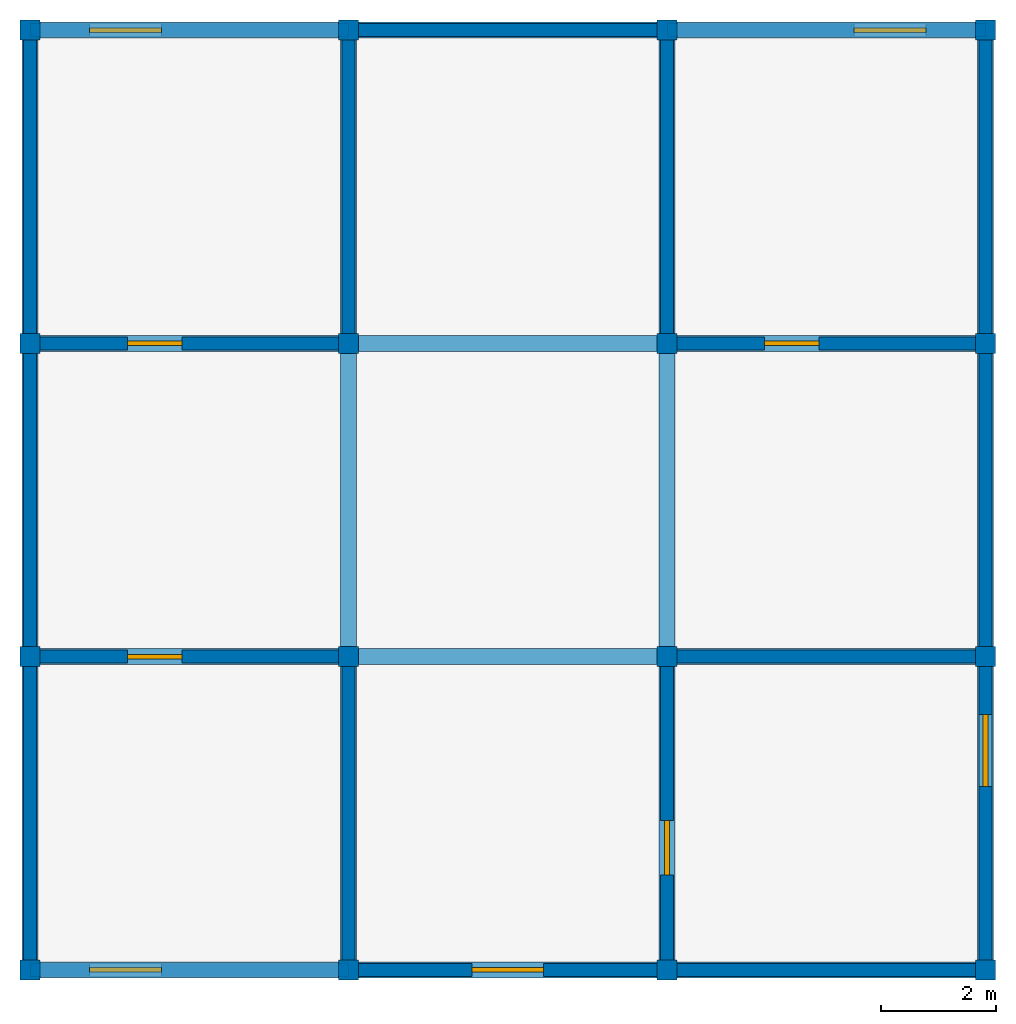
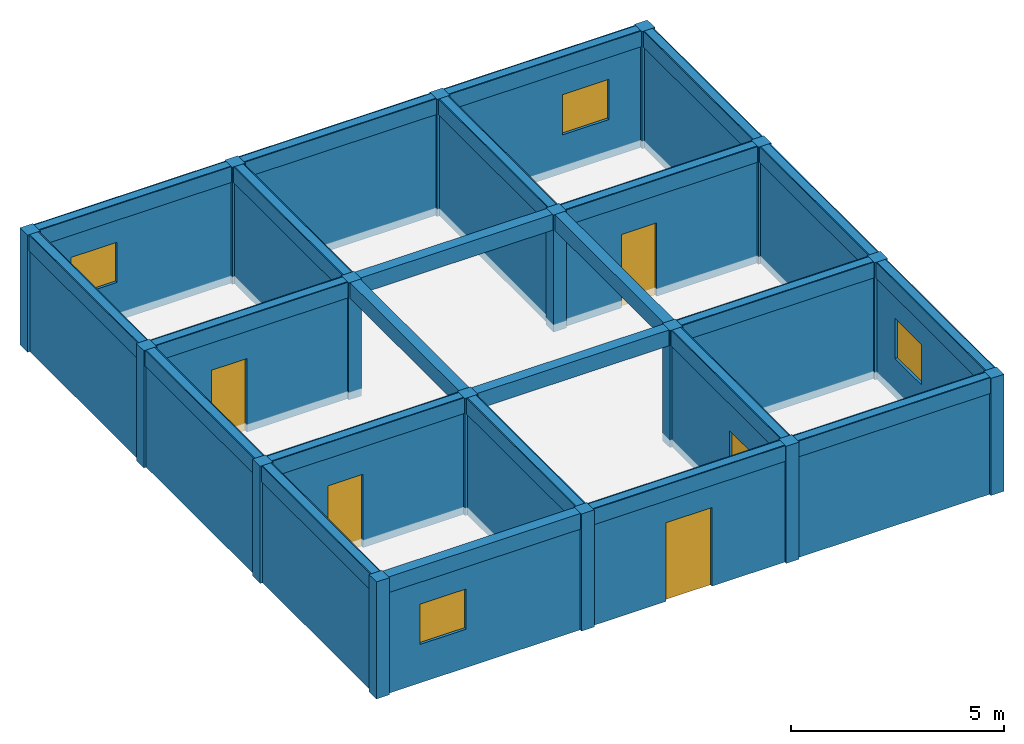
# One storey, incomplete: 24 beams, 20 walls, 16 columns, 5 doors, 4 windows, 9 openings.
"""IFC4X3 building model written with IfcOpenShell, lengths in metres."""

from ifc_helpers import new_model, si_unit, frame, origin_with_axes, origin_2d, place, context, project, spatial, rectangle, extrude, material, element, fill, save


model = new_model("IFC4X3")

# Units and contexts
model_context = context("Model", 3, precision=1e-05, world=origin_with_axes())
ifc_project = project(units=[si_unit("LENGTHUNIT", "METRE"), si_unit("AREAUNIT", "SQUARE_METRE"), si_unit("VOLUMEUNIT", "CUBIC_METRE")], contexts=[model_context])

# Site, building, storey
site = spatial("IfcSite", under=ifc_project, Name="La Serena Parcel", CompositionType="ELEMENT")
building = spatial("IfcBuilding", under=site, Name="Atlas Building", CompositionType="ELEMENT")
storey = spatial("IfcBuildingStorey", under=building, Name="Level 1", CompositionType="ELEMENT")

# Columns
ifc_material_1 = material(Name="Concrete")
column_1_placement = place(None, frame((-8.31, -8.175, 0.0), z_axis=(0.0, 0.0, 1.0), x_axis=(1.0, 0.0, 0.0)))
element("IfcColumn", 1, at=column_1_placement, inside=storey, material=ifc_material_1, Name="Column 1.1", ObjectType="Facade Column", PredefinedType="NOTDEFINED", context=model_context, shape_type="SweptSolid", body=[
    extrude(rectangle(XDim=0.35, YDim=0.35, at=origin_2d()), origin_with_axes(), (0.0, 0.0, 1.0), 3.349),
])
column_2_placement = place(None, frame((-8.31, -2.725, 0.0), z_axis=(0.0, 0.0, 1.0), x_axis=(1.0, 0.0, 0.0)))
element("IfcColumn", 2, at=column_2_placement, inside=storey, material=ifc_material_1, Name="Column 1.2", ObjectType="Core Column", PredefinedType="COLUMN", context=model_context, shape_type="SweptSolid", body=[
    extrude(rectangle(XDim=0.35, YDim=0.35, at=origin_2d()), origin_with_axes(), (0.0, 0.0, 1.0), 3.349),
])
column_3_placement = place(None, frame((-8.31, 2.725, 0.0), z_axis=(0.0, 0.0, 1.0), x_axis=(1.0, 0.0, 0.0)))
element("IfcColumn", 3, at=column_3_placement, inside=storey, material=ifc_material_1, Name="Column 1.3", ObjectType="Core Column", PredefinedType="USERDEFINED", context=model_context, shape_type="SweptSolid", body=[
    extrude(rectangle(XDim=0.35, YDim=0.35, at=origin_2d()), origin_with_axes(), (0.0, 0.0, 1.0), 3.349),
])
column_4_placement = place(None, frame((-8.31, 8.175, 0.0), z_axis=(0.0, 0.0, 1.0), x_axis=(1.0, 0.0, 0.0)))
element("IfcColumn", 4, at=column_4_placement, inside=storey, material=ifc_material_1, Name="Column 1.4", ObjectType="Facade Column", PredefinedType="PILASTER", context=model_context, shape_type="SweptSolid", body=[
    extrude(rectangle(XDim=0.35, YDim=0.35, at=origin_2d()), origin_with_axes(), (0.0, 0.0, 1.0), 3.349),
])
column_5_placement = place(None, frame((-2.77, -8.175, 0.0), z_axis=(0.0, 0.0, 1.0), x_axis=(1.0, 0.0, 0.0)))
element("IfcColumn", 5, at=column_5_placement, inside=storey, material=ifc_material_1, Name="Column 1.5", ObjectType="Facade Column", PredefinedType="USERDEFINED", context=model_context, shape_type="SweptSolid", body=[
    extrude(rectangle(XDim=0.35, YDim=0.35, at=origin_2d()), origin_with_axes(), (0.0, 0.0, 1.0), 3.349),
])
column_6_placement = place(None, frame((-2.77, -2.725, 0.0), z_axis=(0.0, 0.0, 1.0), x_axis=(1.0, 0.0, 0.0)))
element("IfcColumn", 6, at=column_6_placement, inside=storey, material=ifc_material_1, Name="Column 1.6", ObjectType="Core Column", PredefinedType="NOTDEFINED", context=model_context, shape_type="SweptSolid", body=[
    extrude(rectangle(XDim=0.35, YDim=0.35, at=origin_2d()), origin_with_axes(), (0.0, 0.0, 1.0), 3.349),
])
column_7_placement = place(None, frame((-2.77, 2.725, 0.0), z_axis=(0.0, 0.0, 1.0), x_axis=(1.0, 0.0, 0.0)))
element("IfcColumn", 7, at=column_7_placement, inside=storey, material=ifc_material_1, Name="Column 1.7", ObjectType="Structural Column", PredefinedType="NOTDEFINED", context=model_context, shape_type="SweptSolid", body=[
    extrude(rectangle(XDim=0.35, YDim=0.35, at=origin_2d()), origin_with_axes(), (0.0, 0.0, 1.0), 3.349),
])
column_8_placement = place(None, frame((-2.77, 8.175, 0.0), z_axis=(0.0, 0.0, 1.0), x_axis=(1.0, 0.0, 0.0)))
element("IfcColumn", 8, at=column_8_placement, inside=storey, material=ifc_material_1, Name="Column 1.8", ObjectType="Core Column", PredefinedType="COLUMN", context=model_context, shape_type="SweptSolid", body=[
    extrude(rectangle(XDim=0.35, YDim=0.35, at=origin_2d()), origin_with_axes(), (0.0, 0.0, 1.0), 3.349),
])
column_9_placement = place(None, frame((2.77, -8.175, 0.0), z_axis=(0.0, 0.0, 1.0), x_axis=(1.0, 0.0, 0.0)))
element("IfcColumn", 9, at=column_9_placement, inside=storey, material=ifc_material_1, Name="Column 1.9", ObjectType="Structural Column", PredefinedType="USERDEFINED", context=model_context, shape_type="SweptSolid", body=[
    extrude(rectangle(XDim=0.35, YDim=0.35, at=origin_2d()), origin_with_axes(), (0.0, 0.0, 1.0), 3.349),
])
column_10_placement = place(None, frame((2.77, -2.725, 0.0), z_axis=(0.0, 0.0, 1.0), x_axis=(1.0, 0.0, 0.0)))
element("IfcColumn", 10, at=column_10_placement, inside=storey, material=ifc_material_1, Name="Column 1.10", ObjectType="Facade Column", PredefinedType="PILASTER", context=model_context, shape_type="SweptSolid", body=[
    extrude(rectangle(XDim=0.35, YDim=0.35, at=origin_2d()), origin_with_axes(), (0.0, 0.0, 1.0), 3.349),
])
column_11_placement = place(None, frame((2.77, 2.725, 0.0), z_axis=(0.0, 0.0, 1.0), x_axis=(1.0, 0.0, 0.0)))
element("IfcColumn", 11, at=column_11_placement, inside=storey, material=ifc_material_1, Name="Column 1.11", ObjectType="Structural Column", PredefinedType="NOTDEFINED", context=model_context, shape_type="SweptSolid", body=[
    extrude(rectangle(XDim=0.35, YDim=0.35, at=origin_2d()), origin_with_axes(), (0.0, 0.0, 1.0), 3.349),
])
column_12_placement = place(None, frame((2.77, 8.175, 0.0), z_axis=(0.0, 0.0, 1.0), x_axis=(1.0, 0.0, 0.0)))
element("IfcColumn", 12, at=column_12_placement, inside=storey, material=ifc_material_1, Name="Column 1.12", ObjectType="Corner Column", PredefinedType="USERDEFINED", context=model_context, shape_type="SweptSolid", body=[
    extrude(rectangle(XDim=0.35, YDim=0.35, at=origin_2d()), origin_with_axes(), (0.0, 0.0, 1.0), 3.349),
])
column_13_placement = place(None, frame((8.31, -8.175, 0.0), z_axis=(0.0, 0.0, 1.0), x_axis=(1.0, 0.0, 0.0)))
element("IfcColumn", 13, at=column_13_placement, inside=storey, material=ifc_material_1, Name="Column 1.13", ObjectType="Corner Column", PredefinedType="COLUMN", context=model_context, shape_type="SweptSolid", body=[
    extrude(rectangle(XDim=0.35, YDim=0.35, at=origin_2d()), origin_with_axes(), (0.0, 0.0, 1.0), 3.349),
])
column_14_placement = place(None, frame((8.31, -2.725, 0.0), z_axis=(0.0, 0.0, 1.0), x_axis=(1.0, 0.0, 0.0)))
element("IfcColumn", 14, at=column_14_placement, inside=storey, material=ifc_material_1, Name="Column 1.14", ObjectType="Structural Column", PredefinedType="NOTDEFINED", context=model_context, shape_type="SweptSolid", body=[
    extrude(rectangle(XDim=0.35, YDim=0.35, at=origin_2d()), origin_with_axes(), (0.0, 0.0, 1.0), 3.349),
])
column_15_placement = place(None, frame((8.31, 2.725, 0.0), z_axis=(0.0, 0.0, 1.0), x_axis=(1.0, 0.0, 0.0)))
element("IfcColumn", 15, at=column_15_placement, inside=storey, material=ifc_material_1, Name="Column 1.15", ObjectType="Facade Column", PredefinedType="USERDEFINED", context=model_context, shape_type="SweptSolid", body=[
    extrude(rectangle(XDim=0.35, YDim=0.35, at=origin_2d()), origin_with_axes(), (0.0, 0.0, 1.0), 3.349),
])
column_16_placement = place(None, frame((8.31, 8.175, 0.0), z_axis=(0.0, 0.0, 1.0), x_axis=(1.0, 0.0, 0.0)))
element("IfcColumn", 16, at=column_16_placement, inside=storey, material=ifc_material_1, Name="Column 1.16", ObjectType="Core Column", PredefinedType="NOTDEFINED", context=model_context, shape_type="SweptSolid", body=[
    extrude(rectangle(XDim=0.35, YDim=0.35, at=origin_2d()), origin_with_axes(), (0.0, 0.0, 1.0), 3.349),
])

# Beams
ifc_material_2 = material(Name="Timber")
beam_1_placement = place(None, frame((-5.54, -8.175, 2.899), z_axis=(0.0, 0.0, 1.0), x_axis=(1.0, 0.0, 0.0)))
element("IfcBeam", 17, at=beam_1_placement, inside=storey, material=ifc_material_2, Name="Beam 1.1", ObjectType="Rafter Beam", PredefinedType="JOIST", context=model_context, shape_type="SweptSolid", body=[
    extrude(rectangle(XDim=5.54, YDim=0.28, at=origin_2d()), origin_with_axes(), (0.0, 0.0, 1.0), 0.45),
])
beam_2_placement = place(None, frame((0.0, -8.175, 2.899), z_axis=(0.0, 0.0, 1.0), x_axis=(1.0, 0.0, 0.0)))
element("IfcBeam", 18, at=beam_2_placement, inside=storey, material=ifc_material_2, Name="Beam 1.2", ObjectType="Secondary Beam", PredefinedType="T_BEAM", context=model_context, shape_type="SweptSolid", body=[
    extrude(rectangle(XDim=5.54, YDim=0.28, at=origin_2d()), origin_with_axes(), (0.0, 0.0, 1.0), 0.45),
])
beam_3_placement = place(None, frame((5.54, -8.175, 2.899), z_axis=(0.0, 0.0, 1.0), x_axis=(1.0, 0.0, 0.0)))
element("IfcBeam", 19, at=beam_3_placement, inside=storey, material=ifc_material_2, Name="Beam 1.3", ObjectType="Transfer Beam", PredefinedType="SPANDREL", context=model_context, shape_type="SweptSolid", body=[
    extrude(rectangle(XDim=5.54, YDim=0.28, at=origin_2d()), origin_with_axes(), (0.0, 0.0, 1.0), 0.45),
])
beam_4_placement = place(None, frame((-5.54, -2.725, 2.899), z_axis=(0.0, 0.0, 1.0), x_axis=(1.0, 0.0, 0.0)))
element("IfcBeam", 20, at=beam_4_placement, inside=storey, material=ifc_material_2, Name="Beam 1.4", ObjectType="Rafter Beam", PredefinedType="LINTEL", context=model_context, shape_type="SweptSolid", body=[
    extrude(rectangle(XDim=5.54, YDim=0.28, at=origin_2d()), origin_with_axes(), (0.0, 0.0, 1.0), 0.45),
])
beam_5_placement = place(None, frame((0.0, -2.725, 2.899), z_axis=(0.0, 0.0, 1.0), x_axis=(1.0, 0.0, 0.0)))
element("IfcBeam", 21, at=beam_5_placement, inside=storey, material=ifc_material_2, Name="Beam 1.5", ObjectType="Transfer Beam", PredefinedType="T_BEAM", context=model_context, shape_type="SweptSolid", body=[
    extrude(rectangle(XDim=5.54, YDim=0.28, at=origin_2d()), origin_with_axes(), (0.0, 0.0, 1.0), 0.45),
])
beam_6_placement = place(None, frame((5.54, -2.725, 2.899), z_axis=(0.0, 0.0, 1.0), x_axis=(1.0, 0.0, 0.0)))
element("IfcBeam", 22, at=beam_6_placement, inside=storey, material=ifc_material_2, Name="Beam 1.6", ObjectType="Secondary Beam", PredefinedType="JOIST", context=model_context, shape_type="SweptSolid", body=[
    extrude(rectangle(XDim=5.54, YDim=0.28, at=origin_2d()), origin_with_axes(), (0.0, 0.0, 1.0), 0.45),
])
beam_7_placement = place(None, frame((-5.54, 2.725, 2.899), z_axis=(0.0, 0.0, 1.0), x_axis=(1.0, 0.0, 0.0)))
element("IfcBeam", 23, at=beam_7_placement, inside=storey, material=ifc_material_2, Name="Beam 1.7", ObjectType="Primary Beam", PredefinedType="LINTEL", context=model_context, shape_type="SweptSolid", body=[
    extrude(rectangle(XDim=5.54, YDim=0.28, at=origin_2d()), origin_with_axes(), (0.0, 0.0, 1.0), 0.45),
])
beam_8_placement = place(None, frame((0.0, 2.725, 2.899), z_axis=(0.0, 0.0, 1.0), x_axis=(1.0, 0.0, 0.0)))
element("IfcBeam", 24, at=beam_8_placement, inside=storey, material=ifc_material_2, Name="Beam 1.8", ObjectType="Rafter Beam", PredefinedType="LINTEL", context=model_context, shape_type="SweptSolid", body=[
    extrude(rectangle(XDim=5.54, YDim=0.28, at=origin_2d()), origin_with_axes(), (0.0, 0.0, 1.0), 0.45),
])
beam_9_placement = place(None, frame((5.54, 2.725, 2.899), z_axis=(0.0, 0.0, 1.0), x_axis=(1.0, 0.0, 0.0)))
element("IfcBeam", 25, at=beam_9_placement, inside=storey, material=ifc_material_2, Name="Beam 1.9", ObjectType="Secondary Beam", PredefinedType="LINTEL", context=model_context, shape_type="SweptSolid", body=[
    extrude(rectangle(XDim=5.54, YDim=0.28, at=origin_2d()), origin_with_axes(), (0.0, 0.0, 1.0), 0.45),
])
beam_10_placement = place(None, frame((-5.54, 8.175, 2.899), z_axis=(0.0, 0.0, 1.0), x_axis=(1.0, 0.0, 0.0)))
element("IfcBeam", 26, at=beam_10_placement, inside=storey, material=ifc_material_2, Name="Beam 1.10", ObjectType="Ridge Beam", PredefinedType="LINTEL", context=model_context, shape_type="SweptSolid", body=[
    extrude(rectangle(XDim=5.54, YDim=0.28, at=origin_2d()), origin_with_axes(), (0.0, 0.0, 1.0), 0.45),
])
beam_11_placement = place(None, frame((0.0, 8.175, 2.899), z_axis=(0.0, 0.0, 1.0), x_axis=(1.0, 0.0, 0.0)))
element("IfcBeam", 27, at=beam_11_placement, inside=storey, material=ifc_material_2, Name="Beam 1.11", ObjectType="Primary Beam", PredefinedType="BEAM", context=model_context, shape_type="SweptSolid", body=[
    extrude(rectangle(XDim=5.54, YDim=0.28, at=origin_2d()), origin_with_axes(), (0.0, 0.0, 1.0), 0.45),
])
beam_12_placement = place(None, frame((5.54, 8.175, 2.899), z_axis=(0.0, 0.0, 1.0), x_axis=(1.0, 0.0, 0.0)))
element("IfcBeam", 28, at=beam_12_placement, inside=storey, material=ifc_material_2, Name="Beam 1.12", ObjectType="Primary Beam", PredefinedType="JOIST", context=model_context, shape_type="SweptSolid", body=[
    extrude(rectangle(XDim=5.54, YDim=0.28, at=origin_2d()), origin_with_axes(), (0.0, 0.0, 1.0), 0.45),
])
beam_13_placement = place(None, frame((-8.31, -5.45, 2.899), z_axis=(0.0, 0.0, 1.0), x_axis=(0.0, 1.0, 0.0)))
element("IfcBeam", 29, at=beam_13_placement, inside=storey, material=ifc_material_2, Name="Beam 1.13", ObjectType="Ridge Beam", PredefinedType="SPANDREL", context=model_context, shape_type="SweptSolid", body=[
    extrude(rectangle(XDim=5.45, YDim=0.28, at=origin_2d()), origin_with_axes(), (0.0, 0.0, 1.0), 0.45),
])
beam_14_placement = place(None, frame((-8.31, 0.0, 2.899), z_axis=(0.0, 0.0, 1.0), x_axis=(0.0, 1.0, 0.0)))
element("IfcBeam", 30, at=beam_14_placement, inside=storey, material=ifc_material_2, Name="Beam 1.14", ObjectType="Primary Beam", PredefinedType="NOTDEFINED", context=model_context, shape_type="SweptSolid", body=[
    extrude(rectangle(XDim=5.45, YDim=0.28, at=origin_2d()), origin_with_axes(), (0.0, 0.0, 1.0), 0.45),
])
beam_15_placement = place(None, frame((-8.31, 5.45, 2.899), z_axis=(0.0, 0.0, 1.0), x_axis=(0.0, 1.0, 0.0)))
element("IfcBeam", 31, at=beam_15_placement, inside=storey, material=ifc_material_2, Name="Beam 1.15", ObjectType="Secondary Beam", PredefinedType="HOLLOWCORE", context=model_context, shape_type="SweptSolid", body=[
    extrude(rectangle(XDim=5.45, YDim=0.28, at=origin_2d()), origin_with_axes(), (0.0, 0.0, 1.0), 0.45),
])
beam_16_placement = place(None, frame((-2.77, -5.45, 2.899), z_axis=(0.0, 0.0, 1.0), x_axis=(0.0, 1.0, 0.0)))
element("IfcBeam", 32, at=beam_16_placement, inside=storey, material=ifc_material_2, Name="Beam 1.16", ObjectType="Rafter Beam", PredefinedType="NOTDEFINED", context=model_context, shape_type="SweptSolid", body=[
    extrude(rectangle(XDim=5.45, YDim=0.28, at=origin_2d()), origin_with_axes(), (0.0, 0.0, 1.0), 0.45),
])
beam_17_placement = place(None, frame((-2.77, 0.0, 2.899), z_axis=(0.0, 0.0, 1.0), x_axis=(0.0, 1.0, 0.0)))
element("IfcBeam", 33, at=beam_17_placement, inside=storey, material=ifc_material_2, Name="Beam 1.17", ObjectType="Secondary Beam", PredefinedType="T_BEAM", context=model_context, shape_type="SweptSolid", body=[
    extrude(rectangle(XDim=5.45, YDim=0.28, at=origin_2d()), origin_with_axes(), (0.0, 0.0, 1.0), 0.45),
])
beam_18_placement = place(None, frame((-2.77, 5.45, 2.899), z_axis=(0.0, 0.0, 1.0), x_axis=(0.0, 1.0, 0.0)))
element("IfcBeam", 34, at=beam_18_placement, inside=storey, material=ifc_material_2, Name="Beam 1.18", ObjectType="Ridge Beam", PredefinedType="SPANDREL", context=model_context, shape_type="SweptSolid", body=[
    extrude(rectangle(XDim=5.45, YDim=0.28, at=origin_2d()), origin_with_axes(), (0.0, 0.0, 1.0), 0.45),
])
beam_19_placement = place(None, frame((2.77, -5.45, 2.899), z_axis=(0.0, 0.0, 1.0), x_axis=(0.0, 1.0, 0.0)))
element("IfcBeam", 35, at=beam_19_placement, inside=storey, material=ifc_material_2, Name="Beam 1.19", ObjectType="Secondary Beam", PredefinedType="BEAM", context=model_context, shape_type="SweptSolid", body=[
    extrude(rectangle(XDim=5.45, YDim=0.28, at=origin_2d()), origin_with_axes(), (0.0, 0.0, 1.0), 0.45),
])
beam_20_placement = place(None, frame((2.77, 0.0, 2.899), z_axis=(0.0, 0.0, 1.0), x_axis=(0.0, 1.0, 0.0)))
element("IfcBeam", 36, at=beam_20_placement, inside=storey, material=ifc_material_2, Name="Beam 1.20", ObjectType="Transfer Beam", PredefinedType="JOIST", context=model_context, shape_type="SweptSolid", body=[
    extrude(rectangle(XDim=5.45, YDim=0.28, at=origin_2d()), origin_with_axes(), (0.0, 0.0, 1.0), 0.45),
])
beam_21_placement = place(None, frame((2.77, 5.45, 2.899), z_axis=(0.0, 0.0, 1.0), x_axis=(0.0, 1.0, 0.0)))
element("IfcBeam", 37, at=beam_21_placement, inside=storey, material=ifc_material_2, Name="Beam 1.21", ObjectType="Primary Beam", PredefinedType="T_BEAM", context=model_context, shape_type="SweptSolid", body=[
    extrude(rectangle(XDim=5.45, YDim=0.28, at=origin_2d()), origin_with_axes(), (0.0, 0.0, 1.0), 0.45),
])
for number, where, z_axis, x_axis, name in (
    (38, (8.31, -5.45, 2.899), (0.0, 0.0, 1.0), (0.0, 1.0, 0.0), "Beam 1.22"),
    (39, (8.31, 0.0, 2.899), (0.0, 0.0, 1.0), (0.0, 1.0, 0.0), "Beam 1.23"),
):
    element("IfcBeam", number, at=place(None, frame(where, z_axis=z_axis, x_axis=x_axis)), inside=storey, material=ifc_material_2, Name=name, ObjectType="Primary Beam", PredefinedType="BEAM", context=model_context, shape_type="SweptSolid", body=[
        extrude(rectangle(XDim=5.45, YDim=0.28, at=origin_2d()), origin_with_axes(), (0.0, 0.0, 1.0), 0.45),
    ])
beam_22_placement = place(None, frame((8.31, 5.45, 2.899), z_axis=(0.0, 0.0, 1.0), x_axis=(0.0, 1.0, 0.0)))
element("IfcBeam", 40, at=beam_22_placement, inside=storey, material=ifc_material_2, Name="Beam 1.24", ObjectType="Secondary Beam", PredefinedType="JOIST", context=model_context, shape_type="SweptSolid", body=[
    extrude(rectangle(XDim=5.45, YDim=0.28, at=origin_2d()), origin_with_axes(), (0.0, 0.0, 1.0), 0.45),
])

# Wall, opening, door
ifc_material_3 = material(Name="Gypsum")
wall_1_placement = place(None, frame((-5.54, -2.725, 0.0), z_axis=(0.0, 0.0, 1.0), x_axis=(1.0, 0.0, 0.0)))
wall_1 = element("IfcWall", 41, at=wall_1_placement, inside=storey, material=ifc_material_3, Name="Wall 1.1", ObjectType="Corridor Partition", PredefinedType="PLUMBINGWALL", context=model_context, shape_type="SweptSolid", body=[
    extrude(rectangle(XDim=5.54, YDim=0.224998, at=origin_2d()), origin_with_axes(), (0.0, 0.0, 1.0), 3.349),
])
opening_1_placement = place(None, frame((-6.14, -2.725, 0.0), z_axis=(0.0, 0.0, 1.0), x_axis=(1.0, 0.0, 0.0)))
opening_1 = element("IfcOpeningElement", 42, at=opening_1_placement, cuts=wall_1, Name="Door opening 1.1", ObjectType="Door Opening", PredefinedType="OPENING", context=model_context, shape_type="SweptSolid", body=[
    extrude(rectangle(XDim=0.95, YDim=0.304998, at=origin_2d()), origin_with_axes(), (0.0, 0.0, 1.0), 2.1),
])
door_1_placement = place(None, frame((-6.14, -2.725, 0.0), z_axis=(0.0, 0.0, 1.0), x_axis=(1.0, 0.0, 0.0)))
door_1 = element("IfcDoor", 43, at=door_1_placement, inside=storey, Name="Door 1.1", ObjectType="Entry Door", OverallHeight=2.1, OverallWidth=0.95, context=model_context, shape_type="SweptSolid", body=[
    extrude(rectangle(XDim=0.95, YDim=0.08, at=origin_2d()), origin_with_axes(), (0.0, 0.0, 1.0), 2.1),
])
fill(opening_1, door_1)

# Wall
wall_2_placement = place(None, frame((-2.77, -5.45, 0.0), z_axis=(0.0, 0.0, 1.0), x_axis=(0.0, 1.0, 0.0)))
element("IfcWall", 44, at=wall_2_placement, inside=storey, material=ifc_material_3, Name="Wall 1.2", ObjectType="Corridor Partition", PredefinedType="PARTITIONING", context=model_context, shape_type="SweptSolid", body=[
    extrude(rectangle(XDim=5.45, YDim=0.224998, at=origin_2d()), origin_with_axes(), (0.0, 0.0, 1.0), 3.349),
])

# Wall, opening, window
ifc_material_4 = material(Name="Brick")
wall_3_placement = place(None, frame((-5.54, -8.175, 0.0), z_axis=(0.0, 0.0, 1.0), x_axis=(1.0, 0.0, 0.0)))
wall_3 = element("IfcWall", 45, at=wall_3_placement, inside=storey, material=ifc_material_4, Name="Wall 1.3", ObjectType="Exterior Wall", PredefinedType="PLUMBINGWALL", context=model_context, shape_type="SweptSolid", body=[
    extrude(rectangle(XDim=5.54, YDim=0.224998, at=origin_2d()), origin_with_axes(), (0.0, 0.0, 1.0), 3.349),
])
opening_2_placement = place(None, frame((-6.648, -8.175, 1.1), z_axis=(0.0, 0.0, 1.0), x_axis=(1.0, 0.0, 0.0)))
opening_2 = element("IfcOpeningElement", 46, at=opening_2_placement, cuts=wall_3, Name="Window opening 1.2", ObjectType="Window Opening", PredefinedType="OPENING", context=model_context, shape_type="SweptSolid", body=[
    extrude(rectangle(XDim=1.25, YDim=0.304998, at=origin_2d()), origin_with_axes(), (0.0, 0.0, 1.0), 1.15),
])
window_1_placement = place(None, frame((-6.648, -8.175, 1.1), z_axis=(0.0, 0.0, 1.0), x_axis=(1.0, 0.0, 0.0)))
window_1 = element("IfcWindow", 47, at=window_1_placement, inside=storey, Name="Window 1.2", ObjectType="Curtain Window", OverallHeight=1.15, OverallWidth=1.25, context=model_context, shape_type="SweptSolid", body=[
    extrude(rectangle(XDim=1.25, YDim=0.08, at=origin_2d()), origin_with_axes(), (0.0, 0.0, 1.0), 1.15),
])
fill(opening_2, window_1)

# Wall
wall_4_placement = place(None, frame((-8.31, -5.45, 0.0), z_axis=(0.0, 0.0, 1.0), x_axis=(0.0, 1.0, 0.0)))
element("IfcWall", 48, at=wall_4_placement, inside=storey, material=ifc_material_4, Name="Wall 1.4", ObjectType="Exterior Wall", PredefinedType="SHEAR", context=model_context, shape_type="SweptSolid", body=[
    extrude(rectangle(XDim=5.45, YDim=0.224998, at=origin_2d()), origin_with_axes(), (0.0, 0.0, 1.0), 3.349),
])

# Wall, opening, door
ifc_material_5 = material(Name="CLT")
wall_5_placement = place(None, frame((2.77, -5.45, 0.0), z_axis=(0.0, 0.0, 1.0), x_axis=(0.0, 1.0, 0.0)))
wall_5 = element("IfcWall", 49, at=wall_5_placement, inside=storey, material=ifc_material_5, Name="Wall 1.5", ObjectType="Corridor Partition", PredefinedType="USERDEFINED", context=model_context, shape_type="SweptSolid", body=[
    extrude(rectangle(XDim=5.45, YDim=0.224998, at=origin_2d()), origin_with_axes(), (0.0, 0.0, 1.0), 3.349),
])
opening_3_placement = place(None, frame((2.77, -6.05, 0.0), z_axis=(0.0, 0.0, 1.0), x_axis=(0.0, 1.0, 0.0)))
opening_3 = element("IfcOpeningElement", 50, at=opening_3_placement, cuts=wall_5, Name="Door opening 1.3", ObjectType="Door Opening", PredefinedType="OPENING", context=model_context, shape_type="SweptSolid", body=[
    extrude(rectangle(XDim=0.95, YDim=0.304998, at=origin_2d()), origin_with_axes(), (0.0, 0.0, 1.0), 2.1),
])
door_2_placement = place(None, frame((2.77, -6.05, 0.0), z_axis=(0.0, 0.0, 1.0), x_axis=(0.0, 1.0, 0.0)))
door_2 = element("IfcDoor", 51, at=door_2_placement, inside=storey, Name="Door 1.3", ObjectType="Entry Door", OverallHeight=2.1, OverallWidth=0.95, context=model_context, shape_type="SweptSolid", body=[
    extrude(rectangle(XDim=0.95, YDim=0.08, at=origin_2d()), origin_with_axes(), (0.0, 0.0, 1.0), 2.1),
])
fill(opening_3, door_2)

wall_6_placement = place(None, frame((0.0, -8.175, 0.0), z_axis=(0.0, 0.0, 1.0), x_axis=(1.0, 0.0, 0.0)))
wall_6 = element("IfcWall", 52, at=wall_6_placement, inside=storey, material=ifc_material_1, Name="Wall 1.6", ObjectType="Exterior Wall", PredefinedType="SOLIDWALL", context=model_context, shape_type="SweptSolid", body=[
    extrude(rectangle(XDim=5.54, YDim=0.224998, at=origin_2d()), origin_with_axes(), (0.0, 0.0, 1.0), 3.349),
])
opening_4_placement = place(None, frame((0.0, -8.175, 0.0), z_axis=(0.0, 0.0, 1.0), x_axis=(1.0, 0.0, 0.0)))
opening_4 = element("IfcOpeningElement", 53, at=opening_4_placement, cuts=wall_6, Name="Door opening 1.9", ObjectType="Door Opening", PredefinedType="OPENING", context=model_context, shape_type="SweptSolid", body=[
    extrude(rectangle(XDim=1.25, YDim=0.304998, at=origin_2d()), origin_with_axes(), (0.0, 0.0, 1.0), 2.25),
])
door_3_placement = place(None, frame((0.0, -8.175, 0.0), z_axis=(0.0, 0.0, 1.0), x_axis=(1.0, 0.0, 0.0)))
door_3 = element("IfcDoor", 54, at=door_3_placement, inside=storey, Name="Door 1.9", ObjectType="Interior Door", OverallHeight=2.25, OverallWidth=1.25, context=model_context, shape_type="SweptSolid", body=[
    extrude(rectangle(XDim=1.25, YDim=0.08, at=origin_2d()), origin_with_axes(), (0.0, 0.0, 1.0), 2.25),
])
fill(opening_4, door_3)

# Wall
wall_7_placement = place(None, frame((5.54, -2.725, 0.0), z_axis=(0.0, 0.0, 1.0), x_axis=(1.0, 0.0, 0.0)))
element("IfcWall", 55, at=wall_7_placement, inside=storey, material=ifc_material_4, Name="Wall 1.7", ObjectType="Corridor Partition", PredefinedType="USERDEFINED", context=model_context, shape_type="SweptSolid", body=[
    extrude(rectangle(XDim=5.54, YDim=0.224998, at=origin_2d()), origin_with_axes(), (0.0, 0.0, 1.0), 3.349),
])

# Wall, opening, window
wall_8_placement = place(None, frame((8.31, -5.45, 0.0), z_axis=(0.0, 0.0, 1.0), x_axis=(0.0, 1.0, 0.0)))
wall_8 = element("IfcWall", 56, at=wall_8_placement, inside=storey, material=ifc_material_3, Name="Wall 1.8", ObjectType="Exterior Wall", PredefinedType="POLYGONAL", context=model_context, shape_type="SweptSolid", body=[
    extrude(rectangle(XDim=5.45, YDim=0.224998, at=origin_2d()), origin_with_axes(), (0.0, 0.0, 1.0), 3.349),
])
opening_5_placement = place(None, frame((8.31, -4.36, 1.1), z_axis=(0.0, 0.0, 1.0), x_axis=(0.0, 1.0, 0.0)))
opening_5 = element("IfcOpeningElement", 57, at=opening_5_placement, cuts=wall_8, Name="Window opening 1.4", ObjectType="Window Opening", PredefinedType="OPENING", context=model_context, shape_type="SweptSolid", body=[
    extrude(rectangle(XDim=1.25, YDim=0.304998, at=origin_2d()), origin_with_axes(), (0.0, 0.0, 1.0), 1.15),
])
window_2_placement = place(None, frame((8.31, -4.36, 1.1), z_axis=(0.0, 0.0, 1.0), x_axis=(0.0, 1.0, 0.0)))
window_2 = element("IfcWindow", 58, at=window_2_placement, inside=storey, Name="Window 1.4", ObjectType="Curtain Window", OverallHeight=1.15, OverallWidth=1.25, context=model_context, shape_type="SweptSolid", body=[
    extrude(rectangle(XDim=1.25, YDim=0.08, at=origin_2d()), origin_with_axes(), (0.0, 0.0, 1.0), 1.15),
])
fill(opening_5, window_2)

# Wall
wall_9_placement = place(None, frame((5.54, -8.175, 0.0), z_axis=(0.0, 0.0, 1.0), x_axis=(1.0, 0.0, 0.0)))
element("IfcWall", 59, at=wall_9_placement, inside=storey, material=ifc_material_4, Name="Wall 1.9", ObjectType="Exterior Wall", PredefinedType="USERDEFINED", context=model_context, shape_type="SweptSolid", body=[
    extrude(rectangle(XDim=5.54, YDim=0.224998, at=origin_2d()), origin_with_axes(), (0.0, 0.0, 1.0), 3.349),
])

# Wall, opening, door
wall_10_placement = place(None, frame((-5.54, 2.725, 0.0), z_axis=(0.0, 0.0, 1.0), x_axis=(1.0, 0.0, 0.0)))
wall_10 = element("IfcWall", 60, at=wall_10_placement, inside=storey, material=ifc_material_4, Name="Wall 1.10", ObjectType="Corridor Partition", PredefinedType="STANDARD", context=model_context, shape_type="SweptSolid", body=[
    extrude(rectangle(XDim=5.54, YDim=0.224998, at=origin_2d()), origin_with_axes(), (0.0, 0.0, 1.0), 3.349),
])
opening_6_placement = place(None, frame((-6.14, 2.725, 0.0), z_axis=(0.0, 0.0, 1.0), x_axis=(1.0, 0.0, 0.0)))
opening_6 = element("IfcOpeningElement", 61, at=opening_6_placement, cuts=wall_10, Name="Door opening 1.5", ObjectType="Door Opening", PredefinedType="OPENING", context=model_context, shape_type="SweptSolid", body=[
    extrude(rectangle(XDim=0.95, YDim=0.304998, at=origin_2d()), origin_with_axes(), (0.0, 0.0, 1.0), 2.1),
])
door_4_placement = place(None, frame((-6.14, 2.725, 0.0), z_axis=(0.0, 0.0, 1.0), x_axis=(1.0, 0.0, 0.0)))
door_4 = element("IfcDoor", 62, at=door_4_placement, inside=storey, Name="Door 1.5", ObjectType="Interior Door", OverallHeight=2.1, OverallWidth=0.95, context=model_context, shape_type="SweptSolid", body=[
    extrude(rectangle(XDim=0.95, YDim=0.08, at=origin_2d()), origin_with_axes(), (0.0, 0.0, 1.0), 2.1),
])
fill(opening_6, door_4)

# Wall
wall_11_placement = place(None, frame((-8.31, 0.0, 0.0), z_axis=(0.0, 0.0, 1.0), x_axis=(0.0, 1.0, 0.0)))
element("IfcWall", 63, at=wall_11_placement, inside=storey, material=ifc_material_5, Name="Wall 1.11", ObjectType="Exterior Wall", PredefinedType="PARAPET", context=model_context, shape_type="SweptSolid", body=[
    extrude(rectangle(XDim=5.45, YDim=0.224998, at=origin_2d()), origin_with_axes(), (0.0, 0.0, 1.0), 3.349),
])

# Wall, opening, door
wall_12_placement = place(None, frame((5.54, 2.725, 0.0), z_axis=(0.0, 0.0, 1.0), x_axis=(1.0, 0.0, 0.0)))
wall_12 = element("IfcWall", 64, at=wall_12_placement, inside=storey, material=ifc_material_4, Name="Wall 1.12", ObjectType="Corridor Partition", PredefinedType="STANDARD", context=model_context, shape_type="SweptSolid", body=[
    extrude(rectangle(XDim=5.54, YDim=0.224998, at=origin_2d()), origin_with_axes(), (0.0, 0.0, 1.0), 3.349),
])
opening_7_placement = place(None, frame((4.94, 2.725, 0.0), z_axis=(0.0, 0.0, 1.0), x_axis=(1.0, 0.0, 0.0)))
opening_7 = element("IfcOpeningElement", 65, at=opening_7_placement, cuts=wall_12, Name="Door opening 1.7", ObjectType="Door Opening", PredefinedType="OPENING", context=model_context, shape_type="SweptSolid", body=[
    extrude(rectangle(XDim=0.95, YDim=0.304998, at=origin_2d()), origin_with_axes(), (0.0, 0.0, 1.0), 2.1),
])
door_5_placement = place(None, frame((4.94, 2.725, 0.0), z_axis=(0.0, 0.0, 1.0), x_axis=(1.0, 0.0, 0.0)))
door_5 = element("IfcDoor", 66, at=door_5_placement, inside=storey, Name="Door 1.7", ObjectType="Interior Door", OverallHeight=2.1, OverallWidth=0.95, context=model_context, shape_type="SweptSolid", body=[
    extrude(rectangle(XDim=0.95, YDim=0.08, at=origin_2d()), origin_with_axes(), (0.0, 0.0, 1.0), 2.1),
])
fill(opening_7, door_5)

# Wall
wall_13_placement = place(None, frame((8.31, 0.0, 0.0), z_axis=(0.0, 0.0, 1.0), x_axis=(0.0, 1.0, 0.0)))
element("IfcWall", 67, at=wall_13_placement, inside=storey, material=ifc_material_1, Name="Wall 1.13", ObjectType="Exterior Wall", PredefinedType="ELEMENTEDWALL", context=model_context, shape_type="SweptSolid", body=[
    extrude(rectangle(XDim=5.45, YDim=0.224998, at=origin_2d()), origin_with_axes(), (0.0, 0.0, 1.0), 3.349),
])

# Wall, opening, window
wall_14_placement = place(None, frame((-5.54, 8.175, 0.0), z_axis=(0.0, 0.0, 1.0), x_axis=(1.0, 0.0, 0.0)))
wall_14 = element("IfcWall", 68, at=wall_14_placement, inside=storey, material=ifc_material_4, Name="Wall 1.14", ObjectType="Exterior Wall", PredefinedType="SOLIDWALL", context=model_context, shape_type="SweptSolid", body=[
    extrude(rectangle(XDim=5.54, YDim=0.224998, at=origin_2d()), origin_with_axes(), (0.0, 0.0, 1.0), 3.349),
])
opening_8_placement = place(None, frame((-6.648, 8.175, 1.1), z_axis=(0.0, 0.0, 1.0), x_axis=(1.0, 0.0, 0.0)))
opening_8 = element("IfcOpeningElement", 69, at=opening_8_placement, cuts=wall_14, Name="Window opening 1.6", ObjectType="Window Opening", PredefinedType="OPENING", context=model_context, shape_type="SweptSolid", body=[
    extrude(rectangle(XDim=1.25, YDim=0.304998, at=origin_2d()), origin_with_axes(), (0.0, 0.0, 1.0), 1.15),
])
window_3_placement = place(None, frame((-6.648, 8.175, 1.1), z_axis=(0.0, 0.0, 1.0), x_axis=(1.0, 0.0, 0.0)))
window_3 = element("IfcWindow", 70, at=window_3_placement, inside=storey, Name="Window 1.6", ObjectType="Curtain Window", OverallHeight=1.15, OverallWidth=1.25, context=model_context, shape_type="SweptSolid", body=[
    extrude(rectangle(XDim=1.25, YDim=0.08, at=origin_2d()), origin_with_axes(), (0.0, 0.0, 1.0), 1.15),
])
fill(opening_8, window_3)

# Walls
wall_15_placement = place(None, frame((-2.77, 5.45, 0.0), z_axis=(0.0, 0.0, 1.0), x_axis=(0.0, 1.0, 0.0)))
element("IfcWall", 71, at=wall_15_placement, inside=storey, material=ifc_material_5, Name="Wall 1.15", ObjectType="Corridor Partition", PredefinedType="NOTDEFINED", context=model_context, shape_type="SweptSolid", body=[
    extrude(rectangle(XDim=5.45, YDim=0.224998, at=origin_2d()), origin_with_axes(), (0.0, 0.0, 1.0), 3.349),
])
wall_16_placement = place(None, frame((-8.31, 5.45, 0.0), z_axis=(0.0, 0.0, 1.0), x_axis=(0.0, 1.0, 0.0)))
element("IfcWall", 72, at=wall_16_placement, inside=storey, material=ifc_material_4, Name="Wall 1.16", ObjectType="Exterior Wall", PredefinedType="USERDEFINED", context=model_context, shape_type="SweptSolid", body=[
    extrude(rectangle(XDim=5.45, YDim=0.224998, at=origin_2d()), origin_with_axes(), (0.0, 0.0, 1.0), 3.349),
])
wall_17_placement = place(None, frame((0.0, 8.175, 0.0), z_axis=(0.0, 0.0, 1.0), x_axis=(1.0, 0.0, 0.0)))
element("IfcWall", 73, at=wall_17_placement, inside=storey, material=ifc_material_5, Name="Wall 1.17", ObjectType="Exterior Wall", PredefinedType="PLUMBINGWALL", context=model_context, shape_type="SweptSolid", body=[
    extrude(rectangle(XDim=5.54, YDim=0.224998, at=origin_2d()), origin_with_axes(), (0.0, 0.0, 1.0), 3.349),
])
wall_18_placement = place(None, frame((2.77, 5.45, 0.0), z_axis=(0.0, 0.0, 1.0), x_axis=(0.0, 1.0, 0.0)))
element("IfcWall", 74, at=wall_18_placement, inside=storey, material=ifc_material_4, Name="Wall 1.18", ObjectType="Corridor Partition", PredefinedType="NOTDEFINED", context=model_context, shape_type="SweptSolid", body=[
    extrude(rectangle(XDim=5.45, YDim=0.224998, at=origin_2d()), origin_with_axes(), (0.0, 0.0, 1.0), 3.349),
])

# Wall, opening, window
wall_19_placement = place(None, frame((5.54, 8.175, 0.0), z_axis=(0.0, 0.0, 1.0), x_axis=(1.0, 0.0, 0.0)))
wall_19 = element("IfcWall", 75, at=wall_19_placement, inside=storey, material=ifc_material_5, Name="Wall 1.19", ObjectType="Exterior Wall", PredefinedType="SOLIDWALL", context=model_context, shape_type="SweptSolid", body=[
    extrude(rectangle(XDim=5.54, YDim=0.224998, at=origin_2d()), origin_with_axes(), (0.0, 0.0, 1.0), 3.349),
])
opening_9_placement = place(None, frame((6.648, 8.175, 1.1), z_axis=(0.0, 0.0, 1.0), x_axis=(1.0, 0.0, 0.0)))
opening_9 = element("IfcOpeningElement", 76, at=opening_9_placement, cuts=wall_19, Name="Window opening 1.8", ObjectType="Window Opening", PredefinedType="OPENING", context=model_context, shape_type="SweptSolid", body=[
    extrude(rectangle(XDim=1.25, YDim=0.304998, at=origin_2d()), origin_with_axes(), (0.0, 0.0, 1.0), 1.15),
])
window_4_placement = place(None, frame((6.648, 8.175, 1.1), z_axis=(0.0, 0.0, 1.0), x_axis=(1.0, 0.0, 0.0)))
window_4 = element("IfcWindow", 77, at=window_4_placement, inside=storey, Name="Window 1.8", ObjectType="Operable Window", OverallHeight=1.15, OverallWidth=1.25, context=model_context, shape_type="SweptSolid", body=[
    extrude(rectangle(XDim=1.25, YDim=0.08, at=origin_2d()), origin_with_axes(), (0.0, 0.0, 1.0), 1.15),
])
fill(opening_9, window_4)

# Wall
wall_20_placement = place(None, frame((8.31, 5.45, 0.0), z_axis=(0.0, 0.0, 1.0), x_axis=(0.0, 1.0, 0.0)))
element("IfcWall", 78, at=wall_20_placement, inside=storey, material=ifc_material_1, Name="Wall 1.20", ObjectType="Exterior Wall", PredefinedType="POLYGONAL", context=model_context, shape_type="SweptSolid", body=[
    extrude(rectangle(XDim=5.45, YDim=0.224998, at=origin_2d()), origin_with_axes(), (0.0, 0.0, 1.0), 3.349),
])

save(model, "model.ifc")
